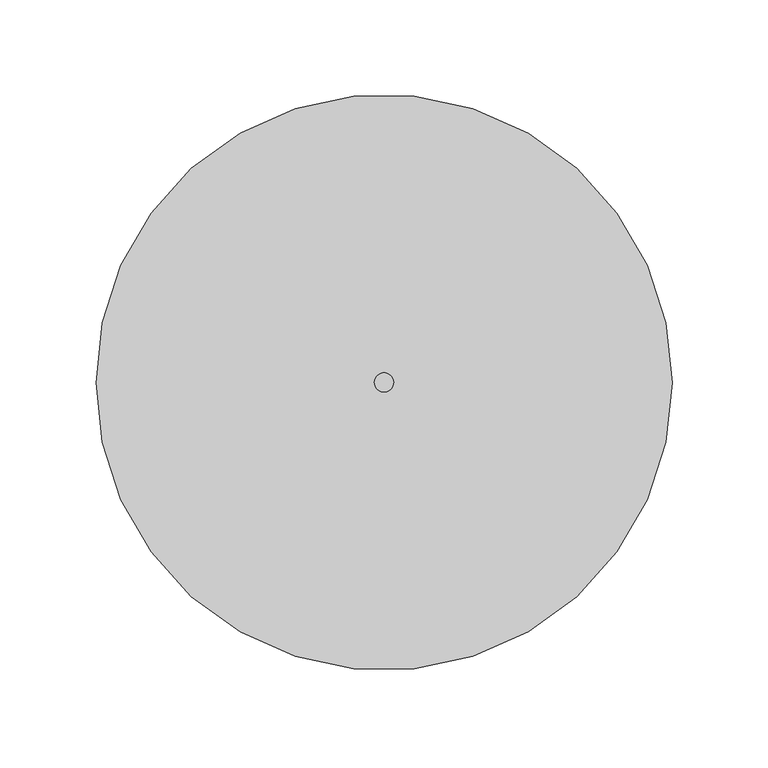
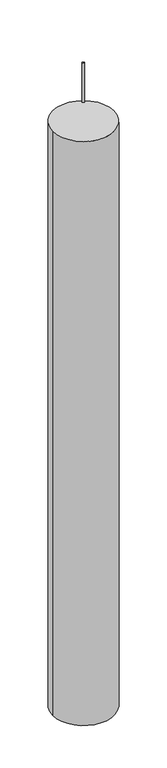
"""IFC4 building model written with IfcOpenShell, lengths in millimetres: proxy geometry, ITA-Palo di fondazione con Amphibia non passante : ITA-Palo di fondazione con Amphibia non passante."""

from ifc_helpers import new_model, si_unit, point, frame, origin, origin_with_axes, origin_2d, place, context, project, spatial, circle_curve, trimmed, segment, composite_curve, outline, extrude, source, transform, mapped, element, save


def generic_models_222d0203(model_context):
    return source(origin(), model_context, "Body", "SweptSolid", [
        extrude(outline(composite_curve([segment(trimmed(circle_curve(origin_2d(), 5.0), [point((-5.0, 0.0))], [point((5.0, 0.0))], False, "CARTESIAN"), True, "CONTINUOUS"), segment(trimmed(circle_curve(origin_2d(), 5.0), [point((5.0, 0.0))], [point((-5.0, 0.0))], False, "CARTESIAN"), True, "CONTINUOUS")], self_intersect=False)), origin_with_axes(), (0.0, 0.0, 1.0), 200.0),
        extrude(outline(composite_curve([segment(trimmed(circle_curve(origin_2d(), 150.0), [point((-150.0, 0.0))], [point((150.0, 0.0))], False, "CARTESIAN"), True, "CONTINUOUS"), segment(trimmed(circle_curve(origin_2d(), 150.0), [point((150.0, 0.0))], [point((-150.0, 0.0))], False, "CARTESIAN"), True, "CONTINUOUS")], self_intersect=False)), frame((0.0, 0.0, -3100.0), z_axis=(0.0, 0.0, 1.0), x_axis=(1.0, 0.0, 0.0)), (0.0, 0.0, 1.0), 3000.0),
    ])


if __name__ == "__main__":
    model = new_model("IFC4")
    model_context = context("Model", 3, world=origin())
    ifc_project = project(units=[si_unit("LENGTHUNIT", "METRE", prefix="MILLI")], contexts=[model_context])
    site = spatial("IfcSite", under=ifc_project)
    building = spatial("IfcBuilding", under=site)
    placement = place(None, origin())
    generic_models_shape = generic_models_222d0203(model_context)
    element("IfcBuildingElementProxy", 1, Name="ITA-Palo di fondazione con Amphibia non passante : ITA-Palo di fondazione con Amphibia non passante", ObjectType="ITA-Palo di fondazione con Amphibia non passante : ITA-Palo di fondazione con Amphibia non passante", at=placement, inside=building, context=model_context, shape_type="MappedRepresentation", body=[
        mapped(generic_models_shape, transform((0.0, 0.0, 0.0), x_axis=(1.0, 0.0, 0.0), y_axis=(0.0, 1.0, 0.0), z_axis=(0.0, 0.0, 1.0))),
    ])
    save(model, "model.ifc")
